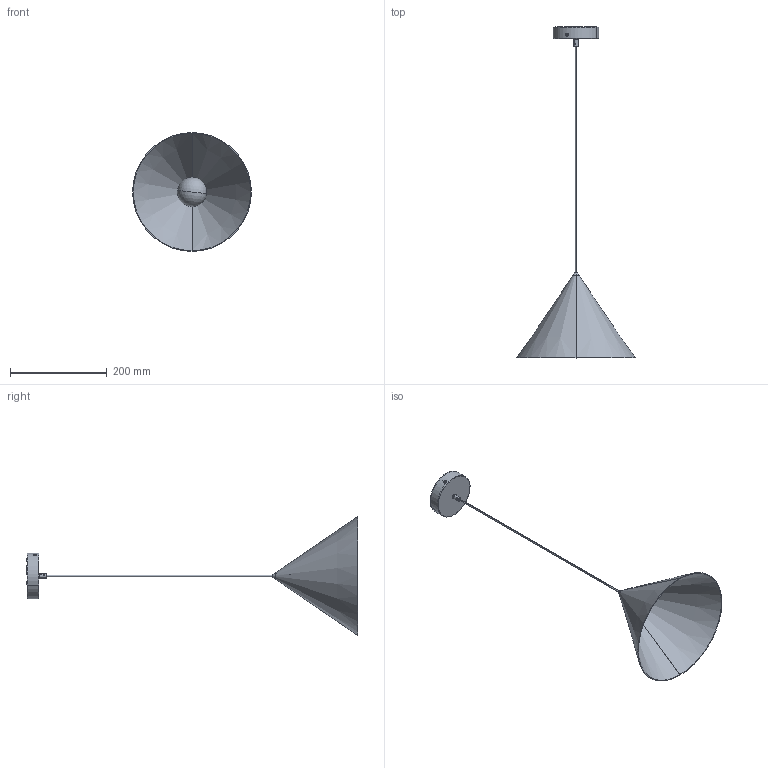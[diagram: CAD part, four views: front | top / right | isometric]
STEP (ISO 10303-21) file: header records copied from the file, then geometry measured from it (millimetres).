
FILE_DESCRIPTION (( 'STEP AP214' ), '1' );
FILE_NAME ('TAO.STEP', '2024-07-05T11:50:36', ( '' ), ( '' ), 'SwSTEP 2.0', 'SolidWorks 2024', '' );
FILE_SCHEMA (( 'AUTOMOTIVE_DESIGN' ));
Length unit declared in the file: millimetre
Products named in the file (1): TAO
Bounding box: 245 x 684.5 x 245 mm (x, y, z)
Volume: 153420.5 mm3; surface area: 243543.1 mm2
Topology: 10 solids, 10 shells, 319 faces, 753 edges, 471 vertices
Faces by surface type: cylinder 129, plane 82, torus 42, cone 38, bspline 24, sphere 4
Entity records: 13901 total; most frequent: CARTESIAN_POINT 6592, DIRECTION 1529, ORIENTED_EDGE 1486, EDGE_CURVE 743, AXIS2_PLACEMENT_3D 631, VERTEX_POINT 465, EDGE_LOOP 380, CIRCLE 335
